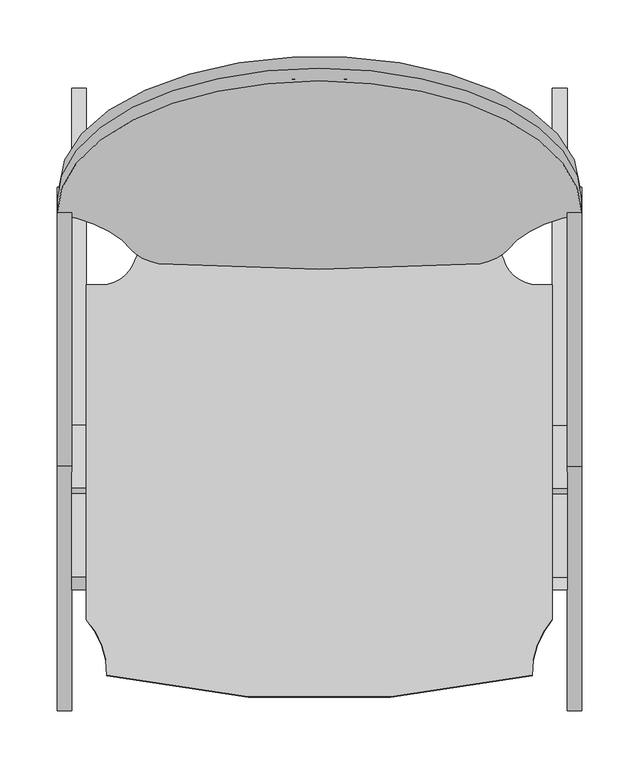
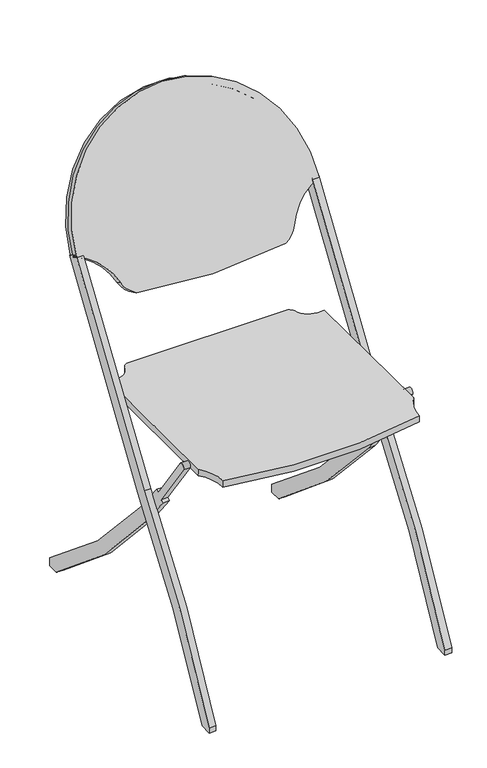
"""IFC4 building model written with IfcOpenShell, lengths in millimetres: furniture geometry, 可摺疊椅 : 可摺疊椅."""

from ifc_helpers import new_model, si_unit, point, frame, frame_2d, origin, place, context, project, spatial, polyline, circle_curve, trimmed, segment, composite_curve, outline, extrude, source, transform, mapped, element, save


def furniture_3fc448d0(model_context):
    return source(origin(), model_context, "Body", "SweptSolid", [
        extrude(outline(composite_curve([segment(trimmed(circle_curve(frame_2d((0.0, 215.9)), 215.9), [point((0.0, 0.0))], [point((0.0, 431.8))], True, "CARTESIAN"), True, "CONTINUOUS"), segment(polyline([(0.0, 431.8), (0.0, 442.9125)]), True, "CONTINUOUS"), segment(trimmed(circle_curve(frame_2d((0.0, 215.9)), 227.0125), [point((0.0, 442.9125))], [point((0.0, -11.1125))], False, "CARTESIAN"), True, "CONTINUOUS"), segment(polyline([(0.0, -11.1125), (0.0, 0.0)]), True, "CONTINUOUS")], self_intersect=False)), frame((444.5, -86.204979, 676.1885966), z_axis=(0.0, -0.8660254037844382, 0.500000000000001), x_axis=(0.0, 0.500000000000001, 0.8660254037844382)), (0.0, 0.0, 1.0), 22.225),
        extrude(outline(composite_curve([segment(trimmed(circle_curve(frame_2d((0.0, -1039.7962868)), 1039.7962868), [point((1030.2878351, -899.4991201))], [point((1030.2878351, -1180.0934535))], False, "CARTESIAN"), True, "CONTINUOUS"), segment(trimmed(circle_curve(frame_2d((987.818684, -1161.3255988)), 46.431252), [point((1030.2878351, -1180.0934535))], [point((1006.5865388, -1203.7947499))], False, "CARTESIAN"), True, "CONTINUOUS"), segment(trimmed(circle_curve(frame_2d((1043.5606045, -1302.0948945)), 105.0238067), [point((1006.5865388, -1203.7947499))], [point((944.0997864, -1268.3673742))], True, "CARTESIAN"), True, "CONTINUOUS"), segment(trimmed(circle_curve(frame_2d((940.4641268, -1039.7962868)), 228.6), [point((944.0997864, -1268.3673742))], [point((944.0997864, -811.2251994))], False, "CARTESIAN"), True, "CONTINUOUS"), segment(trimmed(circle_curve(frame_2d((1043.5606045, -777.4976791)), 105.0238067), [point((944.0997864, -811.2251994))], [point((1006.5865388, -875.7978237))], True, "CARTESIAN"), True, "CONTINUOUS"), segment(trimmed(circle_curve(frame_2d((987.818684, -918.2669748)), 46.431252), [point((1006.5865388, -875.7978237))], [point((1030.2878351, -899.4991201))], False, "CARTESIAN"), True, "CONTINUOUS")], self_intersect=False)), frame((1268.3962868, 373.0285618, 1497.0044217), z_axis=(0.0, -0.8660254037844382, 0.500000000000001), x_axis=(0.0, -0.500000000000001, -0.8660254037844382)), (0.0, 0.0, 1.0), 12.7),
        extrude(outline(composite_curve([segment(polyline([(0.0, 15.5899044), (0.0, 0.0), (-21.8093736, 0.0)]), True, "CONTINUOUS"), segment(trimmed(circle_curve(frame_2d((867.9405651, 1226.902774)), 1515.5676726), [point((-21.8093736, 0.0))], [point((-314.0829225, 278.3428945))], False, "CARTESIAN"), True, "CONTINUOUS"), segment(polyline([(-314.0829225, 278.3428945), (-368.8662803, 348.4623949), (-363.862412, 352.3718452), (-437.1296417, 456.3593777)]), True, "CONTINUOUS"), segment(trimmed(circle_curve(frame_2d((-431.2813149, 459.0702955)), 6.4460842), [point((-437.1296417, 456.3593777))], [point((-426.7604519, 463.665271))], False, "CARTESIAN"), True, "CONTINUOUS"), segment(polyline([(-426.7604519, 463.665271), (-353.8546755, 360.190746), (-348.8508072, 364.1001964), (-294.1697708, 294.1116614)]), True, "CONTINUOUS"), segment(trimmed(circle_curve(frame_2d((867.9405651, 1226.902774)), 1490.1676726), [point((-294.1697708, 294.1116614))], [point((0.0, 15.5899044))], True, "CARTESIAN"), True, "CONTINUOUS")], self_intersect=False)), frame((12.7, 0.0, 0.0), z_axis=(1.0, 0.0, 0.0), x_axis=(0.0, 1.0, 0.0)), (0.0, 0.0, 1.0), 12.7),
        extrude(outline(composite_curve([segment(polyline([(0.0, 15.5899044), (0.0, 0.0), (-21.8093736, 0.0)]), True, "CONTINUOUS"), segment(trimmed(circle_curve(frame_2d((867.9405651, 1226.902774)), 1515.5676726), [point((-21.8093736, 0.0))], [point((-314.0829225, 278.3428945))], False, "CARTESIAN"), True, "CONTINUOUS"), segment(polyline([(-314.0829225, 278.3428945), (-368.8662803, 348.4623949), (-363.862412, 352.3718452), (-437.1296417, 456.3593777)]), True, "CONTINUOUS"), segment(trimmed(circle_curve(frame_2d((-431.2813149, 459.0702955)), 6.4460842), [point((-437.1296417, 456.3593777))], [point((-426.7604519, 463.665271))], False, "CARTESIAN"), True, "CONTINUOUS"), segment(polyline([(-426.7604519, 463.665271), (-353.8546755, 360.190746), (-348.8508072, 364.1001964), (-294.1697708, 294.1116614)]), True, "CONTINUOUS"), segment(trimmed(circle_curve(frame_2d((867.9405651, 1226.902774)), 1490.1676726), [point((-294.1697708, 294.1116614))], [point((0.0, 15.5899044))], True, "CARTESIAN"), True, "CONTINUOUS")], self_intersect=False)), frame((431.8, 0.0, 0.0), z_axis=(1.0, 0.0, 0.0), x_axis=(0.0, 1.0, 0.0)), (0.0, 0.0, 1.0), 12.7),
        extrude(outline(composite_curve([segment(polyline([(-108.3968547, 689.001082), (-86.3998071, 676.3010807)]), True, "CONTINUOUS"), segment(trimmed(circle_curve(frame_2d((-3035.9764705, 2381.0700678)), 3406.7931832), [point((-86.3998071, 676.3010807))], [point((-309.8366643, 337.9348422))], False, "CARTESIAN"), True, "CONTINUOUS"), segment(trimmed(circle_curve(frame_2d((878.2820288, -633.0866524)), 1534.4408662), [point((-309.8366643, 337.9348422))], [point((-519.4697598, 0.0))], True, "CARTESIAN"), True, "CONTINUOUS"), segment(polyline([(-519.4697598, 0.0), (-542.925, 0.0), (-542.925, 9.7773372)]), True, "CONTINUOUS"), segment(trimmed(circle_curve(frame_2d((878.2820288, -633.0866524)), 1559.8408662), [point((-542.925, 9.7773372))], [point((-329.8436935, 353.5925088))], False, "CARTESIAN"), True, "CONTINUOUS"), segment(trimmed(circle_curve(frame_2d((-3035.9764705, 2381.0700678)), 3381.3931832), [point((-329.8436935, 353.5925088))], [point((-108.3968547, 689.001082))], True, "CARTESIAN"), True, "CONTINUOUS")], self_intersect=False)), frame((0.0, 0.0, 0.0), z_axis=(1.0, 0.0, 0.0), x_axis=(0.0, 1.0, 0.0)), (0.0, 0.0, 1.0), 12.7),
        extrude(outline(composite_curve([segment(polyline([(-108.3968547, 689.001082), (-86.3998071, 676.3010807)]), True, "CONTINUOUS"), segment(trimmed(circle_curve(frame_2d((-3035.9764705, 2381.0700678)), 3406.7931832), [point((-86.3998071, 676.3010807))], [point((-309.8366643, 337.9348422))], False, "CARTESIAN"), True, "CONTINUOUS"), segment(trimmed(circle_curve(frame_2d((878.2820288, -633.0866524)), 1534.4408662), [point((-309.8366643, 337.9348422))], [point((-519.4697598, 0.0))], True, "CARTESIAN"), True, "CONTINUOUS"), segment(polyline([(-519.4697598, 0.0), (-542.925, 0.0), (-542.925, 9.7773372)]), True, "CONTINUOUS"), segment(trimmed(circle_curve(frame_2d((878.2820288, -633.0866524)), 1559.8408662), [point((-542.925, 9.7773372))], [point((-329.8436935, 353.5925088))], False, "CARTESIAN"), True, "CONTINUOUS"), segment(trimmed(circle_curve(frame_2d((-3035.9764705, 2381.0700678)), 3381.3931832), [point((-329.8436935, 353.5925088))], [point((-108.3968547, 689.001082))], True, "CARTESIAN"), True, "CONTINUOUS")], self_intersect=False)), frame((444.5, 0.0, 0.0), z_axis=(1.0, 0.0, 0.0), x_axis=(0.0, 1.0, 0.0)), (0.0, 0.0, 1.0), 12.7),
        extrude(outline(composite_curve([segment(polyline([(-152.8937285, 0.0), (-152.8937285, -12.7)]), True, "CONTINUOUS"), segment(trimmed(circle_curve(frame_2d((-121.3617865, -12.7)), 31.5319421), [point((-152.8937285, -12.7))], [point((-129.8370621, -43.0715834))], True, "CARTESIAN"), True, "CONTINUOUS"), segment(trimmed(circle_curve(frame_2d((-134.9760146, -56.1413004)), 14.0437294), [point((-129.8370621, -43.0715834))], [point((-121.9062976, -51.0023479))], False, "CARTESIAN"), True, "CONTINUOUS"), segment(trimmed(circle_curve(frame_2d((-1746.7437285, -203.2)), 1631.95), [point((-121.9062976, -51.0023479))], [point((-121.9062976, -355.3976521))], False, "CARTESIAN"), True, "CONTINUOUS"), segment(trimmed(circle_curve(frame_2d((-134.9760146, -350.2586996)), 14.0437294), [point((-121.9062976, -355.3976521))], [point((-129.8370621, -363.3284166))], False, "CARTESIAN"), True, "CONTINUOUS"), segment(trimmed(circle_curve(frame_2d((-121.3617865, -393.7)), 31.5319421), [point((-129.8370621, -363.3284166))], [point((-152.8937285, -393.7))], True, "CARTESIAN"), True, "CONTINUOUS"), segment(polyline([(-152.8937285, -393.7), (-152.8937285, -406.4), (-444.9937286, -406.4)]), True, "CONTINUOUS"), segment(trimmed(circle_curve(frame_2d((-493.5964109, -464.0966191)), 75.439516), [point((-444.9937286, -406.4))], [point((-493.7415538, -388.6572427))], True, "CARTESIAN"), True, "CONTINUOUS"), segment(trimmed(circle_curve(frame_2d((310.6562714, -203.2)), 825.5), [point((-493.7415538, -388.6572427))], [point((-493.7415538, -17.7427573))], False, "CARTESIAN"), True, "CONTINUOUS"), segment(trimmed(circle_curve(frame_2d((-493.5964109, 57.6966191)), 75.439516), [point((-493.7415538, -17.7427573))], [point((-444.9937286, 0.0))], True, "CARTESIAN"), True, "CONTINUOUS"), segment(polyline([(-444.9937286, 0.0), (-152.8937285, 0.0)]), True, "CONTINUOUS")], self_intersect=False)), frame((25.4, -18.6867021, 452.7076815), z_axis=(0.0, 0.008726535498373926, 0.9999619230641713), x_axis=(0.0, 0.9999619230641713, -0.008726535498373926)), (0.0, 0.0, 1.0), 12.7),
    ])


if __name__ == "__main__":
    model = new_model("IFC4")
    model_context = context("Model", 3, world=origin())
    ifc_project = project(units=[si_unit("LENGTHUNIT", "METRE", prefix="MILLI")], contexts=[model_context])
    site = spatial("IfcSite", under=ifc_project)
    building = spatial("IfcBuilding", under=site)
    placement = place(None, origin())
    furniture_shape = furniture_3fc448d0(model_context)
    element("IfcFurniture", 1, ObjectType="可摺疊椅 : 可摺疊椅", at=placement, inside=building, context=model_context, shape_type="MappedRepresentation", body=[
        mapped(furniture_shape, transform((0.0, 0.0, 0.0), x_axis=(1.0, 0.0, 0.0), y_axis=(0.0, 1.0, 0.0), z_axis=(0.0, 0.0, 1.0))),
    ])
    save(model, "model.ifc")
